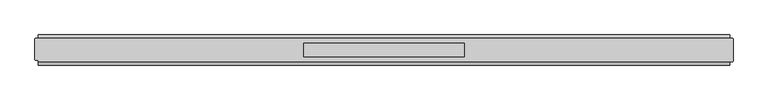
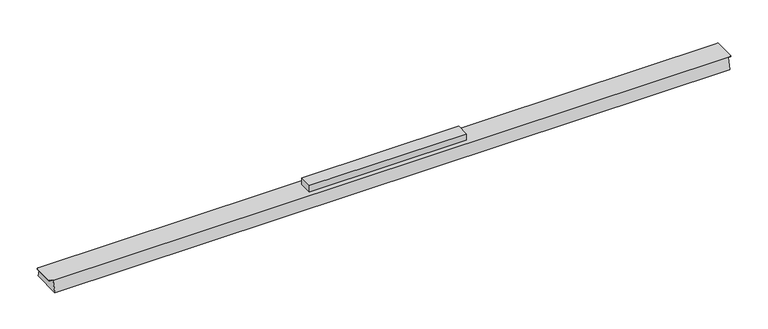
"""IFC4 building model written with IfcOpenShell, lengths in millimetres: light fixture geometry, GENILED_Светильник светодиодный_Retail Basic : Retail Basic 1516x66x25 30Вт Опал."""

from ifc_helpers import new_model, si_unit, frame, origin, place, context, project, spatial, circle_curve, source, transform, mapped, element, save
from ifc_brep_helpers import plane_surface, cylinder_surface, advanced_brep


def light_fixture_058cbd19(model_context):
    return source(origin(), model_context, "Body", "AdvancedBrep", [
        advanced_brep(
        [(758.0, 25.5, 25.0), (-758.0, 25.5, 25.0), (-763.0, 25.5, 25.0), (-765.0, 23.5, 25.0), (-765.0, -21.0, 25.0), (-763.0, -23.0, 25.0), (-758.0, -23.0, 25.0), (-758.0, -25.5, 25.0), (758.0, -25.5, 25.0), (763.0, -25.5, 25.0), (765.0, -23.5, 25.0), (765.0, 23.5, 25.0), (763.0, 25.5, 25.0), (-176.0, 15.0, 25.0), (176.0, 15.0, 25.0), (176.0, -15.0, 25.0), (-176.0, -15.0, 25.0), (758.0, 33.0, 0.0), (758.0, -33.0, 0.0), (-758.0, -33.0, 0.0), (-758.0, 33.0, 0.0), (-758.0, -23.0, 24.0), (-758.0, 25.5, 24.0), (758.0, 25.5, 24.0), (758.0, -25.5, 24.0), (176.0, 15.0, 40.0), (-176.0, 15.0, 40.0), (-176.0, -15.0, 40.0), (176.0, -15.0, 40.0), (763.0, 25.5, 24.0), (765.0, 23.5, 24.0), (765.0, -23.5, 24.0), (763.0, -25.5, 24.0), (-763.0, -23.0, 24.0), (-765.0, -21.0, 24.0), (-765.0, 23.5, 24.0), (-763.0, 25.5, 24.0)],
        [
            (0, 1),
            (1, 2),
            (2, 3, circle_curve(frame((-763.0, 23.5, 25.0), z_axis=(0.0, 0.0, 1.0), x_axis=(1.0, 0.0, 0.0)), 2.0)),
            (3, 4),
            (4, 5, circle_curve(frame((-763.0, -21.0, 25.0), z_axis=(0.0, 0.0, 1.0), x_axis=(1.0, 0.0, 0.0)), 2.0)),
            (5, 6),
            (6, 7),
            (7, 8),
            (8, 9),
            (9, 10, circle_curve(frame((763.0, -23.5, 25.0), z_axis=(0.0, 0.0, 1.0), x_axis=(1.0, 0.0, 0.0)), 2.0)),
            (10, 11),
            (11, 12, circle_curve(frame((763.0, 23.5, 25.0), z_axis=(0.0, 0.0, 1.0), x_axis=(1.0, 0.0, 0.0)), 2.0)),
            (12, 0),
            (13, 14),
            (14, 15),
            (15, 16),
            (16, 13),
            (17, 18),
            (18, 19),
            (19, 20),
            (20, 17),
            (0, 17),
            (20, 1),
            (19, 7),
            (6, 21),
            (21, 22),
            (22, 1),
            (18, 8),
            (0, 23),
            (23, 24),
            (24, 8),
            (25, 26),
            (26, 27),
            (27, 28),
            (28, 25),
            (25, 14),
            (13, 26),
            (16, 27),
            (15, 28),
            (29, 30, circle_curve(frame((763.0, 23.5, 24.0), z_axis=(0.0, 0.0, -1.0), x_axis=(1.0, 0.0, 0.0)), 2.0)),
            (30, 31),
            (31, 32, circle_curve(frame((763.0, -23.5, 24.0), z_axis=(0.0, 0.0, -1.0), x_axis=(1.0, 0.0, 0.0)), 2.0)),
            (32, 24),
            (23, 29),
            (12, 29),
            (32, 9),
            (31, 10),
            (30, 11),
            (21, 33),
            (33, 34, circle_curve(frame((-763.0, -21.0, 24.0), z_axis=(0.0, 0.0, -1.0), x_axis=(1.0, 0.0, 0.0)), 2.0)),
            (34, 35),
            (35, 36, circle_curve(frame((-763.0, 23.5, 24.0), z_axis=(0.0, 0.0, -1.0), x_axis=(1.0, 0.0, 0.0)), 2.0)),
            (36, 22),
            (36, 2),
            (35, 3),
            (34, 4),
            (33, 5),
        ],
        [
            plane_surface(frame((0.0, 0.0, 25.0), z_axis=(0.0, 0.0, 1.0), x_axis=(-1.0, 0.0, 0.0))),
            plane_surface(frame((0.0, 0.0, 0.0), z_axis=(0.0, 0.0, -1.0), x_axis=(-1.0, 0.0, 0.0))),
            plane_surface(frame((0.0, 33.0, 0.0), z_axis=(0.0, 0.9578262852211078, 0.28734788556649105), x_axis=(-1.0, 0.0, 0.0))),
            plane_surface(frame((-758.0, 0.0, 0.0), z_axis=(-1.0, 0.0, 0.0), x_axis=(0.0, -1.0, 0.0))),
            plane_surface(frame((0.0, -33.0, 0.0), z_axis=(0.0, -0.957826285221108, 0.2873478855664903), x_axis=(1.0, 0.0, 0.0))),
            plane_surface(frame((758.0, 0.0, 0.0), z_axis=(1.0, 0.0, 0.0), x_axis=(0.0, 1.0, 0.0))),
            plane_surface(frame((-176.0, 15.0, 40.0), z_axis=(0.0, 0.0, 1.0), x_axis=(-1.0, 0.0, 0.0))),
            plane_surface(frame((176.0, 15.0, 40.0), z_axis=(0.0, 1.0, 0.0), x_axis=(0.0, 0.0, -1.0))),
            plane_surface(frame((-176.0, 15.0, 40.0), z_axis=(-1.0, 0.0, 0.0), x_axis=(0.0, 0.0, -1.0))),
            plane_surface(frame((-176.0, -15.0, 40.0), z_axis=(0.0, -1.0, 0.0), x_axis=(0.0, 0.0, -1.0))),
            plane_surface(frame((176.0, -15.0, 40.0), z_axis=(1.0, 0.0, 0.0), x_axis=(0.0, 0.0, -1.0))),
            plane_surface(frame((758.0, 25.5, 24.0), z_axis=(0.0, 0.0, -1.0), x_axis=(1.0, 0.0, 0.0))),
            plane_surface(frame((763.0, 25.5, 25.0), z_axis=(0.0, 1.0, 0.0), x_axis=(0.0, 0.0, -1.0))),
            plane_surface(frame((758.0, -25.5, 25.0), z_axis=(0.0, -1.0, 0.0), x_axis=(0.0, 0.0, -1.0))),
            cylinder_surface(frame((763.0, -23.5, 24.0), z_axis=(0.0, 0.0, 1.0), x_axis=(1.0, 0.0, 0.0)), 2.0),
            plane_surface(frame((765.0, -23.5, 25.0), z_axis=(1.0, 0.0, 0.0), x_axis=(0.0, 0.0, -1.0))),
            cylinder_surface(frame((763.0, 23.5, 24.0), z_axis=(0.0, 0.0, 1.0), x_axis=(1.0, 0.0, 0.0)), 2.0),
            plane_surface(frame((-763.0, 25.5, 24.0), z_axis=(0.0, 0.0, -1.0), x_axis=(1.0, 0.0, 0.0))),
            plane_surface(frame((-758.0, 25.5, 25.0), z_axis=(0.0, 1.0, 0.0), x_axis=(0.0, 0.0, -1.0))),
            cylinder_surface(frame((-763.0, 23.5, 24.0), z_axis=(0.0, 0.0, 1.0), x_axis=(1.0, 0.0, 0.0)), 2.0),
            plane_surface(frame((-765.0, 23.5, 25.0), z_axis=(-1.0, 0.0, 0.0), x_axis=(0.0, 0.0, -1.0))),
            cylinder_surface(frame((-763.0, -21.0, 24.0), z_axis=(0.0, 0.0, 1.0), x_axis=(1.0, 0.0, 0.0)), 2.0),
            plane_surface(frame((-763.0, -23.0, 25.0), z_axis=(0.0, -1.0, 0.0), x_axis=(0.0, 0.0, -1.0))),
        ],
        [
            (0, [[1, 2, 3, 4, 5, 6, 7, 8, 9, 10, 11, 12, 13], [14, 15, 16, 17]]),
            (1, [[18, 19, 20, 21]]),
            (2, [[-1, 22, -21, 23]]),
            (3, [[-20, 24, -7, 25, 26, 27, -23]]),
            (4, [[-8, -24, -19, 28]]),
            (5, [[-18, -22, 29, 30, 31, -28]]),
            (6, [[32, 33, 34, 35]]),
            (7, [[-32, 36, -14, 37]]),
            (8, [[-33, -37, -17, 38]]),
            (9, [[-34, -38, -16, 39]]),
            (10, [[-35, -39, -15, -36]]),
            (11, [[40, 41, 42, 43, -30, 44]]),
            (12, [[-13, 45, -44, -29]]),
            (13, [[-9, -31, -43, 46]]),
            (14, [[-10, -46, -42, 47]]),
            (15, [[-11, -47, -41, 48]]),
            (16, [[-12, -48, -40, -45]]),
            (17, [[49, 50, 51, 52, 53, -26]]),
            (18, [[-2, -27, -53, 54]]),
            (19, [[-3, -54, -52, 55]]),
            (20, [[-4, -55, -51, 56]]),
            (21, [[-5, -56, -50, 57]]),
            (22, [[-6, -57, -49, -25]]),
        ],
    ),
    ])


if __name__ == "__main__":
    model = new_model("IFC4")
    model_context = context("Model", 3, world=origin())
    ifc_project = project(units=[si_unit("LENGTHUNIT", "METRE", prefix="MILLI")], contexts=[model_context])
    site = spatial("IfcSite", under=ifc_project)
    building = spatial("IfcBuilding", under=site)
    placement = place(None, origin())
    light_fixture_shape = light_fixture_058cbd19(model_context)
    element("IfcLightFixture", 1, ObjectType="GENILED_Светильник светодиодный_Retail Basic : Retail Basic 1516x66x25 30Вт Опал", at=placement, inside=building, context=model_context, shape_type="MappedRepresentation", body=[
        mapped(light_fixture_shape, transform((0.0, 0.0, 0.0), x_axis=(1.0, 0.0, 0.0), y_axis=(0.0, 1.0, 0.0), z_axis=(0.0, 0.0, 1.0))),
    ])
    save(model, "model.ifc")
